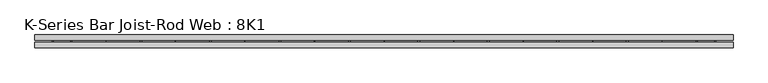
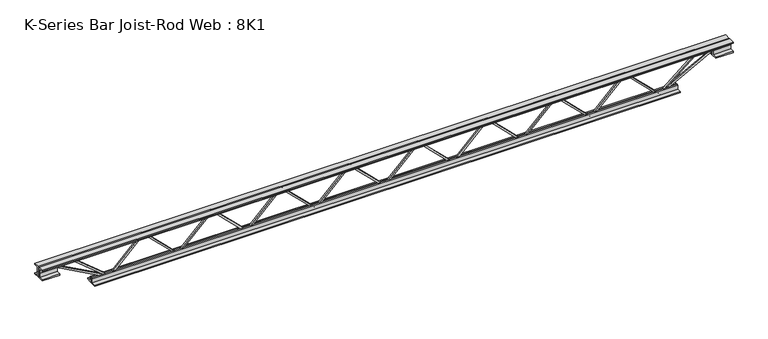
"""IFC4 building model written with IfcOpenShell, lengths in millimetres: beam geometry, K-Series Bar Joist-Rod Web : 8K1."""

from ifc_helpers import new_model, si_unit, frame, origin, place, context, project, spatial, polyline, outline, extrude, source, transform, mapped, element, save


def k_series_bar_joist_rod_web_8k1_7126daa4(model_context):
    return source(origin(), model_context, "Body", "SweptSolid", [
        extrude(outline(polyline([(-90.4875, 796.4251012), (-100.0125, 796.4251012), (-100.0125, 801.5563895), (90.4875, 994.3126648), (90.4875, 996.7500882), (-100.0125, 1189.5063635), (-100.0125, 1194.6376518), (-90.4875, 1194.6376518), (-90.4875, 1193.4189401), (100.0125, 1000.6626648), (100.0125, 990.4000882), (-90.4875, 797.6438129), (-90.4875, 796.4251012)])), frame((0.0, -4.7625, 0.0), z_axis=(0.0, 1.0, 0.0), x_axis=(0.0, 0.0, 1.0)), (0.0, 0.0, 1.0), 9.525),
        extrude(outline(polyline([(-90.4875, 398.2125506), (-100.0125, 398.2125506), (-100.0125, 403.3438389), (90.4875, 596.1001142), (90.4875, 598.5375376), (-100.0125, 791.2938129), (-100.0125, 796.4251012), (-90.4875, 796.4251012), (-90.4875, 795.2063895), (100.0125, 602.4501142), (100.0125, 592.1875376), (-90.4875, 399.4312623), (-90.4875, 398.2125506)])), frame((0.0, -4.7625, 0.0), z_axis=(0.0, 1.0, 0.0), x_axis=(0.0, 0.0, 1.0)), (0.0, 0.0, 1.0), 9.525),
        extrude(outline(polyline([(-90.4875, 0.0), (-100.0125, 0.0), (-100.0125, 5.1312883), (90.4875, 197.8875636), (90.4875, 200.324987), (-100.0125, 393.0812623), (-100.0125, 398.2125506), (-90.4875, 398.2125506), (-90.4875, 396.9938389), (100.0125, 204.2375636), (100.0125, 193.974987), (-90.4875, 1.2187117), (-90.4875, 0.0)])), frame((0.0, -4.7625, 0.0), z_axis=(0.0, 1.0, 0.0), x_axis=(0.0, 0.0, 1.0)), (0.0, 0.0, 1.0), 9.525),
        extrude(outline(polyline([(-90.4875, -398.2125506), (-100.0125, -398.2125506), (-100.0125, -393.0812623), (90.4875, -200.324987), (90.4875, -197.8875636), (-100.0125, -5.1312883), (-100.0125, 0.0), (-90.4875, 0.0), (-90.4875, -1.2187117), (100.0125, -193.974987), (100.0125, -204.2375636), (-90.4875, -396.9938389), (-90.4875, -398.2125506)])), frame((0.0, -4.7625, 0.0), z_axis=(0.0, 1.0, 0.0), x_axis=(0.0, 0.0, 1.0)), (0.0, 0.0, 1.0), 9.525),
        extrude(outline(polyline([(-90.4875, -796.4251012), (-100.0125, -796.4251012), (-100.0125, -791.2938129), (90.4875, -598.5375376), (90.4875, -596.1001142), (-100.0125, -403.3438389), (-100.0125, -398.2125506), (-90.4875, -398.2125506), (-90.4875, -399.4312623), (100.0125, -592.1875376), (100.0125, -602.4501142), (-90.4875, -795.2063895), (-90.4875, -796.4251012)])), frame((0.0, -4.7625, 0.0), z_axis=(0.0, 1.0, 0.0), x_axis=(0.0, 0.0, 1.0)), (0.0, 0.0, 1.0), 9.525),
        extrude(outline(polyline([(-90.4875, -1194.6376518), (-100.0125, -1194.6376518), (-100.0125, -1189.5063635), (90.4875, -996.7500882), (90.4875, -994.3126648), (-100.0125, -801.5563895), (-100.0125, -796.4251012), (-90.4875, -796.4251012), (-90.4875, -797.6438129), (100.0125, -990.4000882), (100.0125, -1000.6626648), (-90.4875, -1193.4189401), (-90.4875, -1194.6376518)])), frame((0.0, -4.7625, 0.0), z_axis=(0.0, 1.0, 0.0), x_axis=(0.0, 0.0, 1.0)), (0.0, 0.0, 1.0), 9.525),
        extrude(outline(polyline([(-90.4875, 1194.6376518), (-100.0125, 1194.6376518), (-100.0125, 1199.7689401), (90.4875, 1392.5252154), (90.4875, 1394.9626388), (-100.0125, 1587.7189141), (-100.0125, 1592.8502024), (-90.4875, 1592.8502024), (-90.4875, 1591.6314907), (100.0125, 1398.8752154), (100.0125, 1388.6126388), (-90.4875, 1195.8563635), (-90.4875, 1194.6376518)])), frame((0.0, -4.7625, 0.0), z_axis=(0.0, 1.0, 0.0), x_axis=(0.0, 0.0, 1.0)), (0.0, 0.0, 1.0), 9.525),
        extrude(outline(polyline([(-90.4875, -1592.8502024), (-100.0125, -1592.8502024), (-100.0125, -1587.7189141), (90.4875, -1394.9626388), (90.4875, -1392.5252154), (-100.0125, -1199.7689401), (-100.0125, -1194.6376518), (-90.4875, -1194.6376518), (-90.4875, -1195.8563635), (100.0125, -1388.6126388), (100.0125, -1398.8752154), (-90.4875, -1591.6314907), (-90.4875, -1592.8502024)])), frame((0.0, -4.7625, 0.0), z_axis=(0.0, 1.0, 0.0), x_axis=(0.0, 0.0, 1.0)), (0.0, 0.0, 1.0), 9.525),
        extrude(outline(polyline([(4.7625, 101.6), (36.5125, 101.6), (36.5125, 95.25), (11.1125, 95.25), (11.1125, 69.85), (4.7625, 69.85), (4.7625, 101.6)])), frame((-1999.2502024, 0.0, 0.0), z_axis=(1.0, 0.0, 0.0), x_axis=(0.0, 1.0, 0.0)), (0.0, 0.0, 1.0), 3998.5004049),
        extrude(outline(polyline([(-4.7625, 101.6), (-4.7625, 69.85), (-11.1125, 69.85), (-11.1125, 95.25), (-36.5125, 95.25), (-36.5125, 101.6), (-4.7625, 101.6)])), frame((-1999.2502024, 0.0, 0.0), z_axis=(1.0, 0.0, 0.0), x_axis=(0.0, 1.0, 0.0)), (0.0, 0.0, 1.0), 3998.5004049),
        extrude(outline(polyline([(-4.7625, 38.1), (-36.5125, 38.1), (-36.5125, 44.45), (-11.1125, 44.45), (-11.1125, 69.85), (-4.7625, 69.85), (-4.7625, 38.1)])), frame((-1999.2502024, 0.0, 0.0), z_axis=(1.0, 0.0, 0.0), x_axis=(0.0, 1.0, 0.0)), (0.0, 0.0, 1.0), 101.6),
        extrude(outline(polyline([(36.5125, 38.1), (4.7625, 38.1), (4.7625, 69.85), (11.1125, 69.85), (11.1125, 44.45), (36.5125, 44.45), (36.5125, 38.1)])), frame((-1999.2502024, 0.0, 0.0), z_axis=(1.0, 0.0, 0.0), x_axis=(0.0, 1.0, 0.0)), (0.0, 0.0, 1.0), 101.6),
        extrude(outline(polyline([(4.7625, 38.1), (4.7625, 69.85), (11.1125, 69.85), (11.1125, 44.45), (36.5125, 44.45), (36.5125, 38.1), (4.7625, 38.1)])), frame((1897.6502024, 0.0, 0.0), z_axis=(1.0, 0.0, 0.0), x_axis=(0.0, 1.0, 0.0)), (0.0, 0.0, 1.0), 101.6),
        extrude(outline(polyline([(-4.7625, 38.1), (-36.5125, 38.1), (-36.5125, 44.45), (-11.1125, 44.45), (-11.1125, 69.85), (-4.7625, 69.85), (-4.7625, 38.1)])), frame((1897.6502024, 0.0, 0.0), z_axis=(1.0, 0.0, 0.0), x_axis=(0.0, 1.0, 0.0)), (0.0, 0.0, 1.0), 101.6),
        extrude(outline(polyline([(4.7625, -101.6), (4.7625, -69.85), (11.1125, -69.85), (11.1125, -95.25), (36.5125, -95.25), (36.5125, -101.6), (4.7625, -101.6)])), frame((-1694.4502024, 0.0, 0.0), z_axis=(1.0, 0.0, 0.0), x_axis=(0.0, 1.0, 0.0)), (0.0, 0.0, 1.0), 3388.9004049),
        extrude(outline(polyline([(-4.7625, -101.6), (-36.5125, -101.6), (-36.5125, -95.25), (-11.1125, -95.25), (-11.1125, -69.85), (-4.7625, -69.85), (-4.7625, -101.6)])), frame((-1694.4502024, 0.0, 0.0), z_axis=(1.0, 0.0, 0.0), x_axis=(0.0, 1.0, 0.0)), (0.0, 0.0, 1.0), 3388.9004049),
        extrude(outline(polyline([(0.0, -9.525), (0.0, 0.0), (346.6425392, 0.0), (346.6425392, -9.525), (0.0, -9.525)])), frame((-1899.9185009, 4.7625, 65.662372), z_axis=(0.47628314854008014, 0.0, 0.8792919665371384), x_axis=(0.8792919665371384, 0.0, -0.47628314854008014)), (0.0, 0.0, 1.0), 9.525),
        extrude(outline(polyline([(0.0, -9.525), (0.0, 0.0), (258.6528926, 0.0), (258.6528926, -9.525), (0.0, -9.525)])), frame((-1794.9964157, 4.7625, 66.1839144), z_axis=(0.6383071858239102, 0.0, 0.769781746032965), x_axis=(0.769781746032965, 0.0, -0.6383071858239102)), (0.0, 0.0, 1.0), 9.525),
        extrude(outline(polyline([(0.0, -9.525), (0.0, 0.0), (346.6425392, 0.0), (346.6425392, -9.525), (0.0, -9.525)])), frame((1899.9185009, -4.7625, 65.662372), z_axis=(-0.47628314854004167, 0.0, 0.8792919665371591), x_axis=(-0.8792919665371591, 0.0, -0.47628314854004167)), (0.0, 0.0, 1.0), 9.525),
        extrude(outline(polyline([(0.0, -9.525), (0.0, 0.0), (258.6528926, 0.0), (258.6528926, -9.525), (0.0, -9.525)])), frame((1794.9964157, -4.7625, 66.1839144), z_axis=(-0.6383071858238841, 0.0, 0.7697817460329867), x_axis=(-0.7697817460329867, 0.0, -0.6383071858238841)), (0.0, 0.0, 1.0), 9.525),
    ])


if __name__ == "__main__":
    model = new_model("IFC4")
    model_context = context("Model", 3, world=origin())
    ifc_project = project(units=[si_unit("LENGTHUNIT", "METRE", prefix="MILLI")], contexts=[model_context])
    site = spatial("IfcSite", under=ifc_project)
    building = spatial("IfcBuilding", under=site)
    placement = place(None, origin())
    k_series_bar_joist_rod_web_8k1_shape = k_series_bar_joist_rod_web_8k1_7126daa4(model_context)
    element("IfcBeam", 1, ObjectType="K-Series Bar Joist-Rod Web : 8K1", at=placement, inside=building, context=model_context, shape_type="MappedRepresentation", body=[
        mapped(k_series_bar_joist_rod_web_8k1_shape, transform((0.0, 0.0, 0.0), x_axis=(1.0, 0.0, 0.0), y_axis=(0.0, 1.0, 0.0), z_axis=(0.0, 0.0, 1.0))),
    ])
    save(model, "model.ifc")
